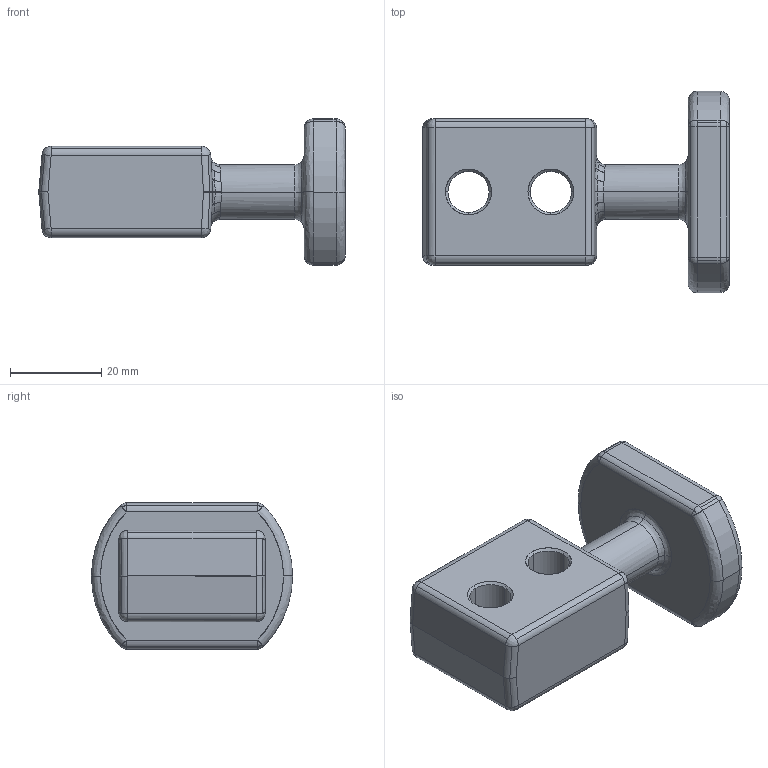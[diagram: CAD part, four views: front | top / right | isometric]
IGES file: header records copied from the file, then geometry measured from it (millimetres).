
Global section: file name: E:\UnigraphicsGraphicData\MISUMI_PRESS-PARTS\IGES\3d_chpl12_03562_r00.igs; native system: NX V5.0; preprocessor: UGS NX IGES V5.0; author: MISUMI; date: 20110105.160233; units: millimetre
Bounding box: 67 x 44 x 32 mm (x, y, z)
Surface area: 9642.9 mm2 (no closed solid volume)
Topology: 0 solids, 0 shells, 172 faces, 828 edges, 810 vertices
Faces by surface type: bspline 172
